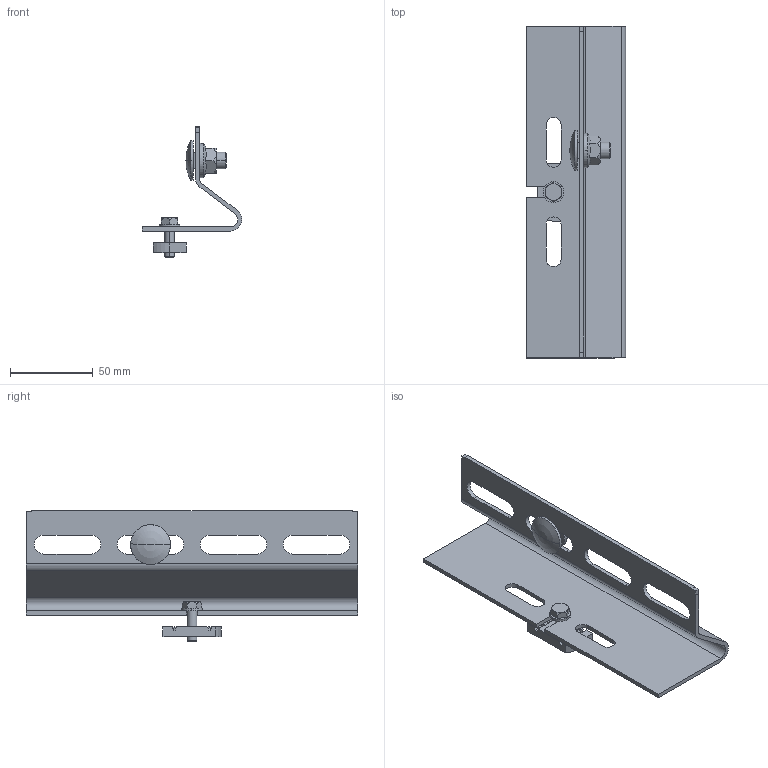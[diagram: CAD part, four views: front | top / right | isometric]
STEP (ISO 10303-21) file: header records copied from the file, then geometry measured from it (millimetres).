
FILE_DESCRIPTION(('Creo Elements/Direct Modeling STEP Export'),'2;1');
FILE_NAME('WPF-C.stp','2016-06-29T12:05:20',(''),(''),'PTC Creo Elements/Direct Modeling STEP processor for AP214 (Solid Model)','PTC Creo Elements/Direct Modeling 19.0C 15-Aug-2015 (C) Parametric Technology GmbH','');
FILE_SCHEMA(('AUTOMOTIVE_DESIGN { 1 0 10303 214 1 1 1 1 }'));
Length unit declared in the file: millimetre
Products named in the file (7): WPF; AM_22_M6F; SEMS_10; FRSV_10x20; US_6x12; SES_6x20; WPF-C
Assembly tree (6 placements, depth 2):
  WPF-C
    SES_6x20
    US_6x12
    FRSV_10x20
    SEMS_10
    AM_22_M6F
    WPF
Bounding box: 59.98 x 200 x 78.9 mm (x, y, z)
Volume: 68447.2 mm3; surface area: 56355.6 mm2
Topology: 6 solids, 6 shells, 173 faces, 458 edges, 297 vertices
Faces by surface type: plane 116, cylinder 35, cone 20, sphere 2
Entity records: 7741 total; most frequent: CARTESIAN_POINT 3278, ORIENTED_EDGE 912, DIRECTION 768, EDGE_CURVE 456, VERTEX_POINT 297, VECTOR 294, LINE 294, AXIS2_PLACEMENT_3D 237
